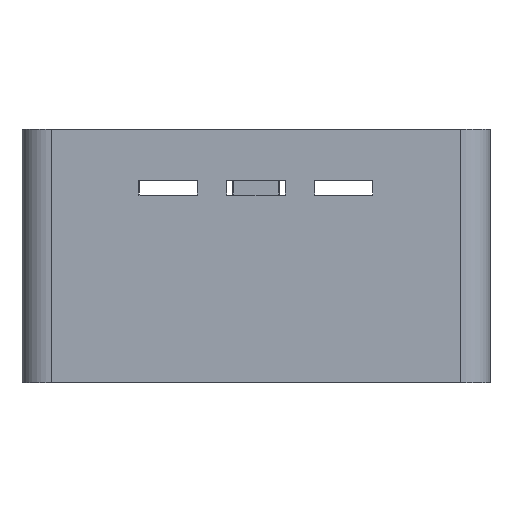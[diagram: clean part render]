
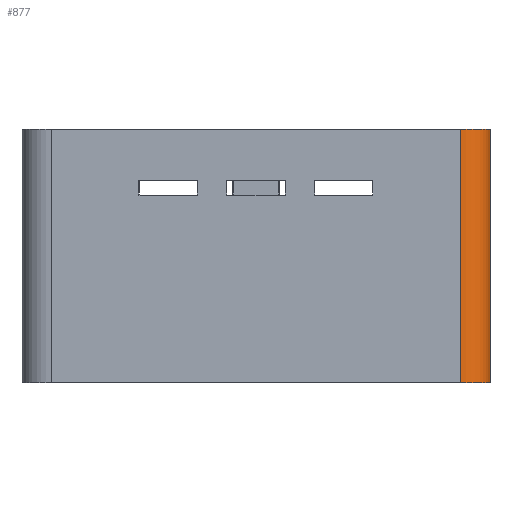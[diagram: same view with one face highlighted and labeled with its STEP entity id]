
A CAD part, left-side view. The second image highlights one B-rep face of the part: STEP entity #877.
In plain terms, the highlighted cylindrical face has radius 6 mm (diameter 12 mm), a partial arc.
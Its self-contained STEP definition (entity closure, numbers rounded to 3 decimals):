
#22 = VERTEX_POINT('',#23);
#23 = CARTESIAN_POINT('',(-73.,-42.,52.));
#32 = PLANE('',#33);
#33 = AXIS2_PLACEMENT_3D('',#34,#35,#36);
#34 = CARTESIAN_POINT('',(-73.,-48.,0.));
#35 = DIRECTION('',(1.,0.,0.));
#36 = DIRECTION('',(0.,0.,1.));
#44 = PLANE('',#45);
#45 = AXIS2_PLACEMENT_3D('',#46,#47,#48);
#46 = CARTESIAN_POINT('',(-73.,-48.,52.));
#47 = DIRECTION('',(0.,0.,1.));
#48 = DIRECTION('',(1.,0.,0.));
#56 = EDGE_CURVE('',#57,#22,#59,.T.);
#57 = VERTEX_POINT('',#58);
#58 = CARTESIAN_POINT('',(-73.,-42.,0.));
#59 = SURFACE_CURVE('',#60,(#64,#71),.PCURVE_S1.);
#60 = LINE('',#61,#62);
#61 = CARTESIAN_POINT('',(-73.,-42.,0.));
#62 = VECTOR('',#63,1.);
#63 = DIRECTION('',(0.,0.,1.));
#64 = PCURVE('',#32,#65);
#65 = DEFINITIONAL_REPRESENTATION('',(#66),#70);
#66 = LINE('',#67,#68);
#67 = CARTESIAN_POINT('',(0.,-6.));
#68 = VECTOR('',#69,1.);
#69 = DIRECTION('',(1.,0.));
#70 = ( GEOMETRIC_REPRESENTATION_CONTEXT(2) 
PARAMETRIC_REPRESENTATION_CONTEXT() REPRESENTATION_CONTEXT('2D SPACE',''
  ) );
#71 = PCURVE('',#72,#77);
#72 = CYLINDRICAL_SURFACE('',#73,6.);
#73 = AXIS2_PLACEMENT_3D('',#74,#75,#76);
#74 = CARTESIAN_POINT('',(-67.,-42.,0.));
#75 = DIRECTION('',(0.,0.,1.));
#76 = DIRECTION('',(-1.,-0.,0.));
#77 = DEFINITIONAL_REPRESENTATION('',(#78),#82);
#78 = LINE('',#79,#80);
#79 = CARTESIAN_POINT('',(0.,0.));
#80 = VECTOR('',#81,1.);
#81 = DIRECTION('',(0.,1.));
#82 = ( GEOMETRIC_REPRESENTATION_CONTEXT(2) 
PARAMETRIC_REPRESENTATION_CONTEXT() REPRESENTATION_CONTEXT('2D SPACE',''
  ) );
#100 = PLANE('',#101);
#101 = AXIS2_PLACEMENT_3D('',#102,#103,#104);
#102 = CARTESIAN_POINT('',(-73.,-48.,0.));
#103 = DIRECTION('',(0.,0.,1.));
#104 = DIRECTION('',(1.,0.,0.));
#460 = EDGE_CURVE('',#22,#461,#463,.T.);
#461 = VERTEX_POINT('',#462);
#462 = CARTESIAN_POINT('',(-67.,-48.,52.));
#463 = SURFACE_CURVE('',#464,(#469,#476),.PCURVE_S1.);
#464 = CIRCLE('',#465,6.);
#465 = AXIS2_PLACEMENT_3D('',#466,#467,#468);
#466 = CARTESIAN_POINT('',(-67.,-42.,52.));
#467 = DIRECTION('',(0.,0.,1.));
#468 = DIRECTION('',(0.,-1.,0.));
#469 = PCURVE('',#44,#470);
#470 = DEFINITIONAL_REPRESENTATION('',(#471),#475);
#471 = CIRCLE('',#472,6.);
#472 = AXIS2_PLACEMENT_2D('',#473,#474);
#473 = CARTESIAN_POINT('',(6.,6.));
#474 = DIRECTION('',(0.,-1.));
#475 = ( GEOMETRIC_REPRESENTATION_CONTEXT(2) 
PARAMETRIC_REPRESENTATION_CONTEXT() REPRESENTATION_CONTEXT('2D SPACE',''
  ) );
#476 = PCURVE('',#72,#477);
#477 = DEFINITIONAL_REPRESENTATION('',(#478),#482);
#478 = LINE('',#479,#480);
#479 = CARTESIAN_POINT('',(-4.712,52.));
#480 = VECTOR('',#481,1.);
#481 = DIRECTION('',(1.,0.));
#482 = ( GEOMETRIC_REPRESENTATION_CONTEXT(2) 
PARAMETRIC_REPRESENTATION_CONTEXT() REPRESENTATION_CONTEXT('2D SPACE',''
  ) );
#500 = PLANE('',#501);
#501 = AXIS2_PLACEMENT_3D('',#502,#503,#504);
#502 = CARTESIAN_POINT('',(-73.,-48.,0.));
#503 = DIRECTION('',(0.,1.,0.));
#504 = DIRECTION('',(0.,0.,1.));
#877 = ADVANCED_FACE('',(#878),#72,.T.);
#878 = FACE_BOUND('',#879,.T.);
#879 = EDGE_LOOP('',(#880,#904,#925,#926));
#880 = ORIENTED_EDGE('',*,*,#881,.T.);
#881 = EDGE_CURVE('',#57,#882,#884,.T.);
#882 = VERTEX_POINT('',#883);
#883 = CARTESIAN_POINT('',(-67.,-48.,0.));
#884 = SURFACE_CURVE('',#885,(#890,#897),.PCURVE_S1.);
#885 = CIRCLE('',#886,6.);
#886 = AXIS2_PLACEMENT_3D('',#887,#888,#889);
#887 = CARTESIAN_POINT('',(-67.,-42.,0.));
#888 = DIRECTION('',(0.,0.,1.));
#889 = DIRECTION('',(0.,-1.,0.));
#890 = PCURVE('',#72,#891);
#891 = DEFINITIONAL_REPRESENTATION('',(#892),#896);
#892 = LINE('',#893,#894);
#893 = CARTESIAN_POINT('',(-4.712,0.));
#894 = VECTOR('',#895,1.);
#895 = DIRECTION('',(1.,0.));
#896 = ( GEOMETRIC_REPRESENTATION_CONTEXT(2) 
PARAMETRIC_REPRESENTATION_CONTEXT() REPRESENTATION_CONTEXT('2D SPACE',''
  ) );
#897 = PCURVE('',#100,#898);
#898 = DEFINITIONAL_REPRESENTATION('',(#899),#903);
#899 = CIRCLE('',#900,6.);
#900 = AXIS2_PLACEMENT_2D('',#901,#902);
#901 = CARTESIAN_POINT('',(6.,6.));
#902 = DIRECTION('',(0.,-1.));
#903 = ( GEOMETRIC_REPRESENTATION_CONTEXT(2) 
PARAMETRIC_REPRESENTATION_CONTEXT() REPRESENTATION_CONTEXT('2D SPACE',''
  ) );
#904 = ORIENTED_EDGE('',*,*,#905,.T.);
#905 = EDGE_CURVE('',#882,#461,#906,.T.);
#906 = SURFACE_CURVE('',#907,(#911,#918),.PCURVE_S1.);
#907 = LINE('',#908,#909);
#908 = CARTESIAN_POINT('',(-67.,-48.,0.));
#909 = VECTOR('',#910,1.);
#910 = DIRECTION('',(0.,0.,1.));
#911 = PCURVE('',#72,#912);
#912 = DEFINITIONAL_REPRESENTATION('',(#913),#917);
#913 = LINE('',#914,#915);
#914 = CARTESIAN_POINT('',(1.571,0.));
#915 = VECTOR('',#916,1.);
#916 = DIRECTION('',(0.,1.));
#917 = ( GEOMETRIC_REPRESENTATION_CONTEXT(2) 
PARAMETRIC_REPRESENTATION_CONTEXT() REPRESENTATION_CONTEXT('2D SPACE',''
  ) );
#918 = PCURVE('',#500,#919);
#919 = DEFINITIONAL_REPRESENTATION('',(#920),#924);
#920 = LINE('',#921,#922);
#921 = CARTESIAN_POINT('',(0.,6.));
#922 = VECTOR('',#923,1.);
#923 = DIRECTION('',(1.,0.));
#924 = ( GEOMETRIC_REPRESENTATION_CONTEXT(2) 
PARAMETRIC_REPRESENTATION_CONTEXT() REPRESENTATION_CONTEXT('2D SPACE',''
  ) );
#925 = ORIENTED_EDGE('',*,*,#460,.F.);
#926 = ORIENTED_EDGE('',*,*,#56,.F.);
